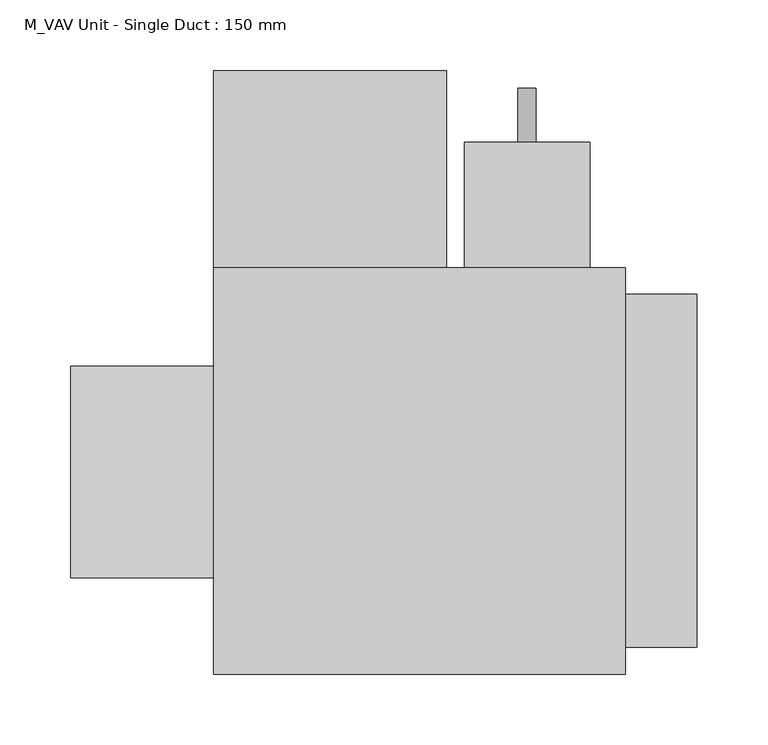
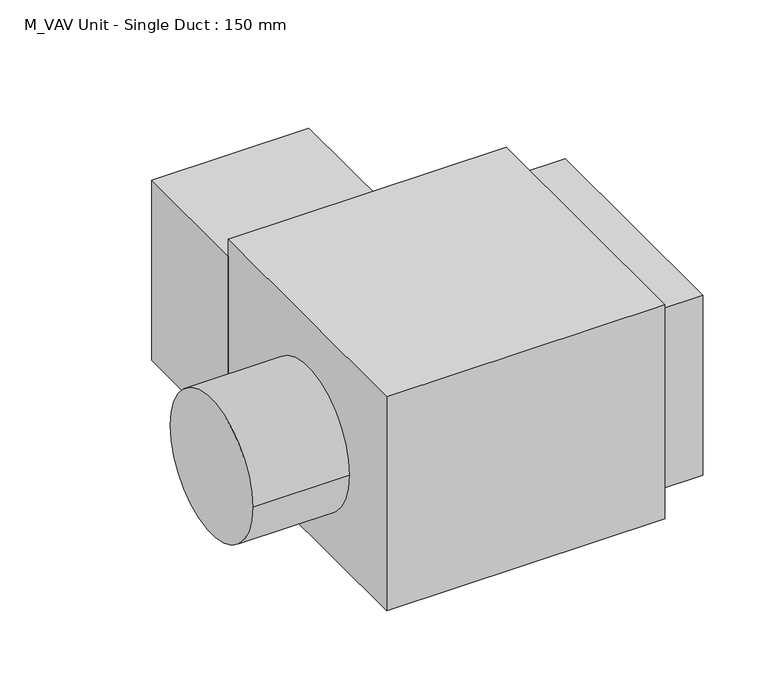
"""IFC4 building model written with IfcOpenShell, lengths in millimetres: proxy geometry, M_VAV Unit - Single Duct : 150 mm."""

import ifcopenshell
import ifcopenshell.guid

model = None  # the IFC model being written
_history = None  # IfcOwnerHistory: only IFC2X3 demands one
_inside = {}  # id of a spatial element -> (the spatial element, [elements in it])
_under = {}  # id of a project, library or spatial element -> (it, [spatial elements below it])
_declared = {}  # id of a project -> (the project, [libraries it declares])
_typed = {}  # id of a type object -> (the type object, [elements of that type])
_made_of = {}  # id of a material, layer set ... -> (it, [elements and type objects made of it])


def new_model(schema):
    """Start an empty IFC model of exactly this schema.

    Asked for "IFC4X3", IfcOpenShell would pick the latest addendum, in which some entities
    have other attributes; the version numbers below select the first issue.
    IFC2X3 requires an IfcOwnerHistory on every rooted entity: one is made here for all.
    """
    global model, _history
    if schema == "IFC4X3":
        model = ifcopenshell.file(schema_version=(4, 3, 0, 0))
    else:
        model = ifcopenshell.file(schema=schema)
    _inside.clear()
    _under.clear()
    _declared.clear()
    _typed.clear()
    _made_of.clear()
    _history = None
    if model.schema == "IFC2X3":
        org = make("IfcOrganization", Name="unknown")
        user = make(
            "IfcPersonAndOrganization",
            ThePerson=make("IfcPerson", FamilyName="unknown"),
            TheOrganization=org,
        )
        app = make(
            "IfcApplication",
            ApplicationDeveloper=org,
            Version="unknown",
            ApplicationFullName="unknown",
            ApplicationIdentifier="unknown",
        )
        _history = make(
            "IfcOwnerHistory",
            OwningUser=user,
            OwningApplication=app,
            ChangeAction="ADDED",
            CreationDate=0,
        )
    return model


def make(cls, **values):
    """One entity of the class cls with the attributes given. An attribute that is None is left unset."""
    return model.create_entity(
        cls, **{name: value for name, value in values.items() if value is not None}
    )


def rooted(cls, **values):
    """An entity with a GlobalId (a new one), such as an element, a storey or a relation."""
    return make(cls, GlobalId=ifcopenshell.guid.new(), OwnerHistory=_history, **values)


def si_unit(unit_type, name, prefix=None):
    """IfcSIUnit, for example si_unit("LENGTHUNIT", "METRE", prefix="MILLI")."""
    return make("IfcSIUnit", UnitType=unit_type, Prefix=prefix, Name=name)


def assignment(units):
    """IfcUnitAssignment: the units of a project."""
    return None if units is None else make("IfcUnitAssignment", Units=units)


def point(xyz):
    """IfcCartesianPoint."""
    return None if xyz is None else make("IfcCartesianPoint", Coordinates=xyz)


def direction(xyz):
    """IfcDirection."""
    return None if xyz is None else make("IfcDirection", DirectionRatios=xyz)


def frame(location, z_axis=None, x_axis=None):
    """IfcAxis2Placement3D, a coordinate frame: its origin and axes. An axis left out is left unset."""
    return make(
        "IfcAxis2Placement3D",
        Location=point(location),
        Axis=direction(z_axis),
        RefDirection=direction(x_axis),
    )


def origin():
    """The frame at (0, 0, 0) with its axes left unset."""
    return frame((0.0, 0.0, 0.0))


def origin_with_axes():
    """The frame at (0, 0, 0) with the z axis (0, 0, 1) and the x axis (1, 0, 0) written out."""
    return frame((0.0, 0.0, 0.0), z_axis=(0.0, 0.0, 1.0), x_axis=(1.0, 0.0, 0.0))


def place(relative_to, where):
    """IfcLocalPlacement: puts the frame where relative to a parent placement (None: the world)."""
    return make(
        "IfcLocalPlacement", PlacementRelTo=relative_to, RelativePlacement=where
    )


def context(
    kind, dimensions, precision=None, world=None, true_north=None, identifier=None
):
    """IfcGeometricRepresentationContext, for example the 3D "Model" context."""
    return make(
        "IfcGeometricRepresentationContext",
        ContextIdentifier=identifier,
        ContextType=kind,
        CoordinateSpaceDimension=dimensions,
        Precision=precision,
        WorldCoordinateSystem=world,
        TrueNorth=true_north,
    )


def project(units=None, contexts=None):
    """IfcProject with its units and contexts."""
    return rooted(
        "IfcProject",
        Name="project",
        RepresentationContexts=contexts,
        UnitsInContext=assignment(units),
    )


def spatial(cls, under=None, at=None, **own):
    """A site, building, storey or space (cls), placed at a placement, below another one or the project."""
    s = rooted(cls, ObjectPlacement=at, **own)
    if under is not None:
        _under.setdefault(under.id(), (under, []))[1].append(s)
    return s


def polyline(points):
    """IfcPolyline through the points."""
    return make("IfcPolyline", Points=[point(p) for p in points])


def circle_curve(where, radius):
    """IfcCircle in the frame where."""
    return make("IfcCircle", Position=where, Radius=radius)


def outline(outer, holes=None, kind="AREA"):
    """IfcArbitraryClosedProfileDef: a profile drawn as a closed curve; with holes, ...WithVoids."""
    if holes is None:
        return make("IfcArbitraryClosedProfileDef", ProfileType=kind, OuterCurve=outer)
    return make(
        "IfcArbitraryProfileDefWithVoids",
        ProfileType=kind,
        OuterCurve=outer,
        InnerCurves=holes,
    )


def extrude(swept, where, along, depth):
    """IfcExtrudedAreaSolid: the profile swept, set in the frame where, extruded along a direction by depth."""
    return make(
        "IfcExtrudedAreaSolid",
        SweptArea=swept,
        Position=where,
        ExtrudedDirection=direction(along),
        Depth=depth,
    )


def faces_of(points, faces, orient=None, outer=None):
    """IfcFace entities. A face is a list of loops; a loop is a list of indices into points, from 0.

    orient and outer hold one flag for each loop. By default every Orientation is true, the
    first loop of a face is its IfcFaceOuterBound and the others are IfcFaceBound.
    """
    made = []
    for i, loops in enumerate(faces):
        bounds = []
        for j, loop in enumerate(loops):
            is_outer = j == 0 if outer is None else outer[i][j]
            bounds.append(
                make(
                    "IfcFaceOuterBound" if is_outer else "IfcFaceBound",
                    Bound=make("IfcPolyLoop", Polygon=[points[k] for k in loop]),
                    Orientation=True if orient is None else orient[i][j],
                )
            )
        made.append(make("IfcFace", Bounds=bounds))
    return made


def faceted_brep(points, faces, orient=None, outer=None, voids=None):
    """IfcFacetedBrep: a solid bounded by flat faces; with voids (closed shells), ...WithVoids."""
    shared = [point(p) for p in points]
    hull = make("IfcClosedShell", CfsFaces=faces_of(shared, faces, orient, outer))
    if voids is None:
        return make("IfcFacetedBrep", Outer=hull)
    return make(
        "IfcFacetedBrepWithVoids",
        Outer=hull,
        Voids=[
            make(cls, CfsFaces=faces_of(shared, fs, o, b)) for cls, fs, o, b in voids
        ],
    )


def shape(context_of_items, identifier, shape_type, items):
    """IfcShapeRepresentation: the items that make up one representation, for example the "Body"."""
    return make(
        "IfcShapeRepresentation",
        ContextOfItems=context_of_items,
        RepresentationIdentifier=identifier,
        RepresentationType=shape_type,
        Items=items,
    )


def source(mapping_origin, context_of_items, identifier, shape_type, items):
    """IfcRepresentationMap: a shape defined once, which mapped items show again and again."""
    return make(
        "IfcRepresentationMap",
        MappingOrigin=mapping_origin,
        MappedRepresentation=shape(context_of_items, identifier, shape_type, items),
    )


def transform(
    local_origin,
    x_axis=None,
    y_axis=None,
    z_axis=None,
    scale=None,
    scale2=None,
    scale3=None,
    uniform=True,
):
    """IfcCartesianTransformationOperator3D, or its non-uniform kind. x_axis, y_axis, z_axis: its Axis1, 2, 3."""
    if uniform:
        return make(
            "IfcCartesianTransformationOperator3D",
            Axis1=direction(x_axis),
            Axis2=direction(y_axis),
            LocalOrigin=point(local_origin),
            Scale=scale,
            Axis3=direction(z_axis),
        )
    return make(
        "IfcCartesianTransformationOperator3DnonUniform",
        Axis1=direction(x_axis),
        Axis2=direction(y_axis),
        LocalOrigin=point(local_origin),
        Scale=scale,
        Axis3=direction(z_axis),
        Scale2=scale2,
        Scale3=scale3,
    )


def mapped(mapping_source, mapping_target):
    """IfcMappedItem: shows the shape of a source again, moved by a transform."""
    return make(
        "IfcMappedItem", MappingSource=mapping_source, MappingTarget=mapping_target
    )


def made_of(thing, what):
    """Note that an element or type object is made of a material, layer set ...; save() writes the relation."""
    if what is not None:
        _made_of.setdefault(what.id(), (what, []))[1].append(thing)
    return thing


def element(
    cls,
    number,
    at=None,
    inside=None,
    cuts=None,
    type_object=None,
    material=None,
    context=None,
    identifier="Body",
    shape_type=None,
    held_by="IfcProductDefinitionShape",
    body=None,
    shapes=None,
    **own,
):
    """One element of the class cls, such as IfcWall. Its Tag is "e" and its number.

    at: its placement. inside: the storey or other place that contains it. cuts: it is an
    opening in that element (IfcRelVoidsElement). A single representation is given by context,
    identifier, shape_type and body (its items); several are given by shapes. held_by: the class
    of the entity that holds the representations. save() writes the other relations.
    """
    e = rooted(cls, Tag="e%d" % number, ObjectPlacement=at, **own)
    if body is not None:
        shapes = [shape(context, identifier, shape_type, body)]
    if shapes is not None:
        e.Representation = make(held_by, Representations=shapes)
    if inside is not None:
        _inside.setdefault(inside.id(), (inside, []))[1].append(e)
    if cuts is not None:
        rooted(
            "IfcRelVoidsElement", RelatingBuildingElement=cuts, RelatedOpeningElement=e
        )
    if type_object is not None:
        _typed.setdefault(type_object.id(), (type_object, []))[1].append(e)
    return made_of(e, material)


def aggregate(whole, parts):
    """IfcRelAggregates: a whole, such as a stair, and the parts it consists of."""
    return rooted("IfcRelAggregates", RelatingObject=whole, RelatedObjects=parts)


def save(model, path):
    """Write the relations noted so far, then the file.

    IfcRelAggregates (storeys below a building ...), IfcRelContainedInSpatialStructure (elements
    in a storey), IfcRelDefinesByType, IfcRelAssociatesMaterial and IfcRelDeclares: one each for
    every whole, place, type object, material and project.
    """
    for whole, parts in _under.values():
        aggregate(whole, parts)
    for where, things in _inside.values():
        rooted(
            "IfcRelContainedInSpatialStructure",
            RelatedElements=things,
            RelatingStructure=where,
        )
    for kind, things in _typed.values():
        rooted("IfcRelDefinesByType", RelatedObjects=things, RelatingType=kind)
    for what, things in _made_of.values():
        rooted("IfcRelAssociatesMaterial", RelatedObjects=things, RelatingMaterial=what)
    for by, libraries in _declared.values():
        rooted("IfcRelDeclares", RelatingContext=by, RelatedDefinitions=libraries)
    model.write(path)


def plane_surface(at):
    """IfcPlane: the flat surface through the origin of the frame at, square to its z axis."""
    return make("IfcPlane", Position=at)


def cylinder_surface(at, radius):
    """IfcCylindricalSurface: all points at the distance radius from the z axis of the frame at."""
    return make("IfcCylindricalSurface", Position=at, Radius=radius)


def advanced_brep(points, edges, surfaces, faces):
    """IfcAdvancedBrep: a solid bounded by faces that lie on surfaces and meet in shared edges.

    An edge is (start, end): straight between two places in points (the first is 0);
    or (start, end, curve); or (start, end, curve, False) where it runs against its curve.
    A face is (place in surfaces, loops), or (place, loops, False) where it looks against
    its surface's normal. A loop lists edges by number (the first is 1), with a minus sign
    where the edge is run from its end to its start. The first loop is the outer one.
    """
    corners = [point(p) for p in points]
    vertices = [make("IfcVertexPoint", VertexGeometry=c) for c in corners]
    made = []
    for start, end, *more in edges:
        made.append(
            make(
                "IfcEdgeCurve",
                EdgeStart=vertices[start],
                EdgeEnd=vertices[end],
                EdgeGeometry=more[0] if more else make("IfcPolyline", Points=[corners[start], corners[end]]),
                SameSense=more[1] if len(more) > 1 else True,
            )
        )
    hull = []
    for where, loops, *sense in faces:
        bounds = []
        for j, loop in enumerate(loops):
            ring = [make("IfcOrientedEdge", EdgeElement=made[abs(k) - 1], Orientation=k > 0) for k in loop]
            bounds.append(
                make(
                    "IfcFaceOuterBound" if j == 0 else "IfcFaceBound",
                    Bound=make("IfcEdgeLoop", EdgeList=ring),
                    Orientation=True,
                )
            )
        hull.append(make("IfcAdvancedFace", Bounds=bounds, FaceSurface=surfaces[where], SameSense=sense[0] if sense else True))
    return make("IfcAdvancedBrep", Outer=make("IfcClosedShell", CfsFaces=hull))


def m_vav_unit_single_duct_150_mm_e1405e6c(model_context):
    return source(origin(), model_context, "Body", "SolidModel", [
        advanced_brep(
        [(266.7, 232.95, 160.325), (266.7, 232.95, 58.725), (177.8, 232.95, 58.725), (177.8, 232.95, 160.325), (228.6, 232.95, 109.525), (215.9, 232.95, 109.525), (266.7, 144.05, 160.325), (177.8, 144.05, 160.325), (177.8, 144.05, 58.725), (266.7, 144.05, 58.725), (215.9, 271.05, 109.525), (228.6, 271.05, 109.525)],
        [
            (0, 1),
            (1, 2),
            (2, 3),
            (3, 0),
            (4, 5, circle_curve(frame((222.25, 232.95, 109.525), z_axis=(0.0, -1.0, 0.0), x_axis=(1.0, 0.0, 0.0)), 6.35)),
            (5, 4, circle_curve(frame((222.25, 232.95, 109.525), z_axis=(0.0, -1.0, 0.0), x_axis=(1.0, 0.0, 0.0)), 6.35)),
            (6, 7),
            (7, 8),
            (8, 9),
            (9, 6),
            (3, 7),
            (6, 0),
            (2, 8),
            (1, 9),
            (10, 11, circle_curve(frame((222.25, 271.05, 109.525), z_axis=(0.0, 1.0, 0.0), x_axis=(1.0, 0.0, 0.0)), 6.35)),
            (11, 10, circle_curve(frame((222.25, 271.05, 109.525), z_axis=(0.0, 1.0, 0.0), x_axis=(1.0, 0.0, 0.0)), 6.35)),
            (11, 4),
            (5, 10),
        ],
        [
            plane_surface(frame((177.8, 232.95, 160.325), z_axis=(0.0, 1.0, 0.0), x_axis=(-1.0, 0.0, 0.0))),
            plane_surface(frame((177.8, 144.05, 160.325), z_axis=(0.0, -1.0, 0.0), x_axis=(1.0, 0.0, 0.0))),
            plane_surface(frame((266.7, 232.95, 160.325), z_axis=(0.0, 0.0, 1.0), x_axis=(0.0, -1.0, 0.0))),
            plane_surface(frame((177.8, 232.95, 160.325), z_axis=(-1.0, 0.0, 0.0), x_axis=(0.0, -1.0, 0.0))),
            plane_surface(frame((177.8, 232.95, 58.725), z_axis=(0.0, 0.0, -1.0), x_axis=(0.0, -1.0, 0.0))),
            plane_surface(frame((266.7, 232.95, 58.725), z_axis=(1.0, 0.0, 0.0), x_axis=(0.0, -1.0, 0.0))),
            plane_surface(frame((228.6, 271.05, 109.525), z_axis=(0.0, 1.0, 0.0), x_axis=(0.0, 0.0, 1.0))),
            cylinder_surface(frame((222.25, 144.05, 109.525), z_axis=(0.0, 1.0, 0.0), x_axis=(1.0, 0.0, 0.0)), 6.35),
        ],
        [
            (0, [[1, 2, 3, 4], [5, 6]]),
            (1, [[7, 8, 9, 10]]),
            (2, [[11, -7, 12, -4]]),
            (3, [[13, -8, -11, -3]]),
            (4, [[14, -9, -13, -2]]),
            (5, [[-12, -10, -14, -1]]),
            (6, [[15, 16]]),
            (7, [[17, -6, 18, -16]]),
            (7, [[-18, -5, -17, -15]]),
        ],
    ),
        faceted_brep([(342.8, -125.0, 219.05), (342.8, -125.0, 19.05), (342.8, 125.0, 19.05), (342.8, 125.0, 219.05), (292.0, -125.0, 219.05), (292.0, 125.0, 219.05), (292.0, 125.0, 19.05), (292.0, -125.0, 19.05)], [[[0, 1, 2, 3]], [[4, 5, 6, 7]], [[3, 5, 4, 0]], [[2, 6, 5, 3]], [[1, 7, 6, 2]], [[0, 4, 7, 1]]]),
        advanced_brep(
        [(0.0, 74.15, 109.525), (0.0, -75.85, 109.525), (-101.6, 74.15, 109.525), (-101.6, -75.85, 109.525)],
        [
            (0, 1, circle_curve(frame((0.0, -0.85, 109.525), z_axis=(1.0, 0.0, 0.0), x_axis=(0.0, -1.0, 0.0)), 75.0)),
            (1, 0, circle_curve(frame((0.0, -0.85, 109.525), z_axis=(1.0, 0.0, 0.0), x_axis=(0.0, -1.0, 0.0)), 75.0)),
            (2, 3, circle_curve(frame((-101.6, -0.85, 109.525), z_axis=(-1.0, 0.0, 0.0), x_axis=(0.0, -1.0, 0.0)), 75.0)),
            (3, 2, circle_curve(frame((-101.6, -0.85, 109.525), z_axis=(-1.0, 0.0, 0.0), x_axis=(0.0, -1.0, 0.0)), 75.0)),
            (1, 3),
            (2, 0),
        ],
        [
            plane_surface(frame((0.0, -75.85, 109.525), z_axis=(1.0, 0.0, 0.0), x_axis=(0.0, 0.0, 1.0))),
            plane_surface(frame((-101.6, -75.85, 109.525), z_axis=(-1.0, 0.0, 0.0), x_axis=(0.0, 0.0, -1.0))),
            cylinder_surface(frame((-101.6, -0.85, 109.525), z_axis=(1.0, 0.0, 0.0), x_axis=(0.0, -1.0, 0.0)), 75.0),
        ],
        [
            (0, [[1, 2]]),
            (1, [[3, 4]]),
            (2, [[5, -3, 6, -2]]),
            (2, [[-6, -4, -5, -1]]),
        ],
    ),
        extrude(outline(polyline([(165.1, 283.75), (165.1, 144.05), (0.0, 144.05), (0.0, 283.75), (165.1, 283.75)])), frame((0.0, 0.0, 19.05), z_axis=(0.0, 0.0, 1.0), x_axis=(1.0, 0.0, 0.0)), (0.0, 0.0, 1.0), 200.0),
        extrude(outline(polyline([(292.0, -144.05), (0.0, -144.05), (0.0, 144.05), (292.0, 144.05), (292.0, -144.05)])), origin_with_axes(), (0.0, 0.0, 1.0), 238.1),
    ])


if __name__ == "__main__":
    model = new_model("IFC4")
    model_context = context("Model", 3, world=origin())
    ifc_project = project(units=[si_unit("LENGTHUNIT", "METRE", prefix="MILLI")], contexts=[model_context])
    site = spatial("IfcSite", under=ifc_project)
    building = spatial("IfcBuilding", under=site)
    placement = place(None, origin())
    m_vav_unit_single_duct_150_mm_shape = m_vav_unit_single_duct_150_mm_e1405e6c(model_context)
    element("IfcBuildingElementProxy", 1, Name="M_VAV Unit - Single Duct : 150 mm", ObjectType="M_VAV Unit - Single Duct : 150 mm", at=placement, inside=building, context=model_context, shape_type="MappedRepresentation", body=[
        mapped(m_vav_unit_single_duct_150_mm_shape, transform((0.0, 0.0, 0.0), x_axis=(1.0, 0.0, 0.0), y_axis=(0.0, 1.0, 0.0), z_axis=(0.0, 0.0, 1.0))),
    ])
    save(model, "model.ifc")
